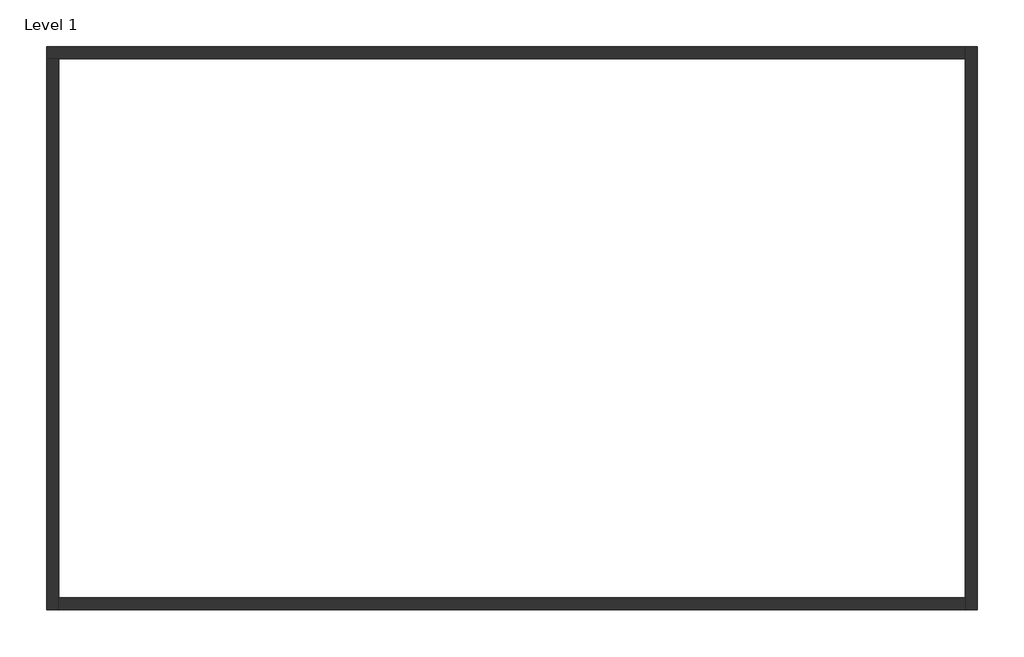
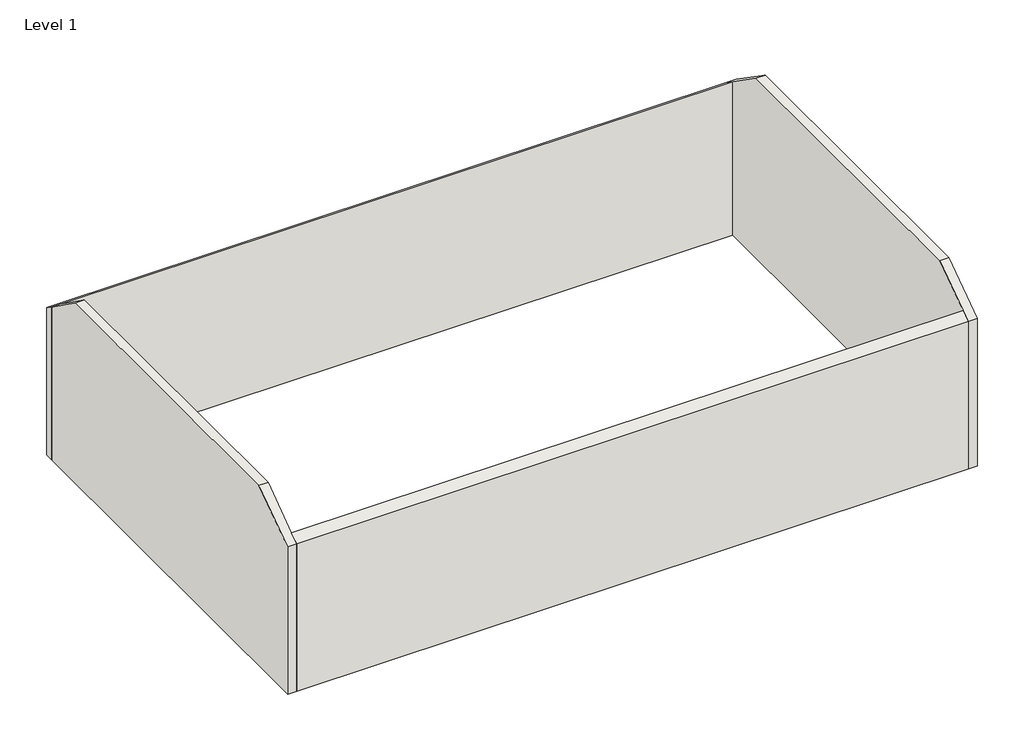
# One storey: 4 walls.
"""IFC4 building model written with IfcOpenShell, lengths in millimetres."""

import ifcopenshell
import ifcopenshell.guid

model = None  # the IFC model being written
_history = None  # IfcOwnerHistory: only IFC2X3 demands one
_inside = {}  # id of a spatial element -> (the spatial element, [elements in it])
_under = {}  # id of a project, library or spatial element -> (it, [spatial elements below it])
_declared = {}  # id of a project -> (the project, [libraries it declares])
_typed = {}  # id of a type object -> (the type object, [elements of that type])
_made_of = {}  # id of a material, layer set ... -> (it, [elements and type objects made of it])


def new_model(schema):
    """Start an empty IFC model of exactly this schema.

    Asked for "IFC4X3", IfcOpenShell would pick the latest addendum, in which some entities
    have other attributes; the version numbers below select the first issue.
    IFC2X3 requires an IfcOwnerHistory on every rooted entity: one is made here for all.
    """
    global model, _history
    if schema == "IFC4X3":
        model = ifcopenshell.file(schema_version=(4, 3, 0, 0))
    else:
        model = ifcopenshell.file(schema=schema)
    _inside.clear()
    _under.clear()
    _declared.clear()
    _typed.clear()
    _made_of.clear()
    _history = None
    if model.schema == "IFC2X3":
        org = make("IfcOrganization", Name="unknown")
        user = make(
            "IfcPersonAndOrganization",
            ThePerson=make("IfcPerson", FamilyName="unknown"),
            TheOrganization=org,
        )
        app = make(
            "IfcApplication",
            ApplicationDeveloper=org,
            Version="unknown",
            ApplicationFullName="unknown",
            ApplicationIdentifier="unknown",
        )
        _history = make(
            "IfcOwnerHistory",
            OwningUser=user,
            OwningApplication=app,
            ChangeAction="ADDED",
            CreationDate=0,
        )
    return model


def make(cls, **values):
    """One entity of the class cls with the attributes given. An attribute that is None is left unset."""
    return model.create_entity(
        cls, **{name: value for name, value in values.items() if value is not None}
    )


def rooted(cls, **values):
    """An entity with a GlobalId (a new one), such as an element, a storey or a relation."""
    return make(cls, GlobalId=ifcopenshell.guid.new(), OwnerHistory=_history, **values)


def si_unit(unit_type, name, prefix=None):
    """IfcSIUnit, for example si_unit("LENGTHUNIT", "METRE", prefix="MILLI")."""
    return make("IfcSIUnit", UnitType=unit_type, Prefix=prefix, Name=name)


def assignment(units):
    """IfcUnitAssignment: the units of a project."""
    return None if units is None else make("IfcUnitAssignment", Units=units)


def point(xyz):
    """IfcCartesianPoint."""
    return None if xyz is None else make("IfcCartesianPoint", Coordinates=xyz)


def direction(xyz):
    """IfcDirection."""
    return None if xyz is None else make("IfcDirection", DirectionRatios=xyz)


def frame(location, z_axis=None, x_axis=None):
    """IfcAxis2Placement3D, a coordinate frame: its origin and axes. An axis left out is left unset."""
    return make(
        "IfcAxis2Placement3D",
        Location=point(location),
        Axis=direction(z_axis),
        RefDirection=direction(x_axis),
    )


def origin():
    """The frame at (0, 0, 0) with its axes left unset."""
    return frame((0.0, 0.0, 0.0))


def place(relative_to, where):
    """IfcLocalPlacement: puts the frame where relative to a parent placement (None: the world)."""
    return make(
        "IfcLocalPlacement", PlacementRelTo=relative_to, RelativePlacement=where
    )


def context(
    kind, dimensions, precision=None, world=None, true_north=None, identifier=None
):
    """IfcGeometricRepresentationContext, for example the 3D "Model" context."""
    return make(
        "IfcGeometricRepresentationContext",
        ContextIdentifier=identifier,
        ContextType=kind,
        CoordinateSpaceDimension=dimensions,
        Precision=precision,
        WorldCoordinateSystem=world,
        TrueNorth=true_north,
    )


def project(units=None, contexts=None):
    """IfcProject with its units and contexts."""
    return rooted(
        "IfcProject",
        Name="project",
        RepresentationContexts=contexts,
        UnitsInContext=assignment(units),
    )


def spatial(cls, under=None, at=None, **own):
    """A site, building, storey or space (cls), placed at a placement, below another one or the project."""
    s = rooted(cls, ObjectPlacement=at, **own)
    if under is not None:
        _under.setdefault(under.id(), (under, []))[1].append(s)
    return s


def polyline(points):
    """IfcPolyline through the points."""
    return make("IfcPolyline", Points=[point(p) for p in points])


def outline(outer, holes=None, kind="AREA"):
    """IfcArbitraryClosedProfileDef: a profile drawn as a closed curve; with holes, ...WithVoids."""
    if holes is None:
        return make("IfcArbitraryClosedProfileDef", ProfileType=kind, OuterCurve=outer)
    return make(
        "IfcArbitraryProfileDefWithVoids",
        ProfileType=kind,
        OuterCurve=outer,
        InnerCurves=holes,
    )


def extrude(swept, where, along, depth):
    """IfcExtrudedAreaSolid: the profile swept, set in the frame where, extruded along a direction by depth."""
    return make(
        "IfcExtrudedAreaSolid",
        SweptArea=swept,
        Position=where,
        ExtrudedDirection=direction(along),
        Depth=depth,
    )


def faces_of(points, faces, orient=None, outer=None):
    """IfcFace entities. A face is a list of loops; a loop is a list of indices into points, from 0.

    orient and outer hold one flag for each loop. By default every Orientation is true, the
    first loop of a face is its IfcFaceOuterBound and the others are IfcFaceBound.
    """
    made = []
    for i, loops in enumerate(faces):
        bounds = []
        for j, loop in enumerate(loops):
            is_outer = j == 0 if outer is None else outer[i][j]
            bounds.append(
                make(
                    "IfcFaceOuterBound" if is_outer else "IfcFaceBound",
                    Bound=make("IfcPolyLoop", Polygon=[points[k] for k in loop]),
                    Orientation=True if orient is None else orient[i][j],
                )
            )
        made.append(make("IfcFace", Bounds=bounds))
    return made


def faceted_brep(points, faces, orient=None, outer=None, voids=None):
    """IfcFacetedBrep: a solid bounded by flat faces; with voids (closed shells), ...WithVoids."""
    shared = [point(p) for p in points]
    hull = make("IfcClosedShell", CfsFaces=faces_of(shared, faces, orient, outer))
    if voids is None:
        return make("IfcFacetedBrep", Outer=hull)
    return make(
        "IfcFacetedBrepWithVoids",
        Outer=hull,
        Voids=[
            make(cls, CfsFaces=faces_of(shared, fs, o, b)) for cls, fs, o, b in voids
        ],
    )


def shape(context_of_items, identifier, shape_type, items):
    """IfcShapeRepresentation: the items that make up one representation, for example the "Body"."""
    return make(
        "IfcShapeRepresentation",
        ContextOfItems=context_of_items,
        RepresentationIdentifier=identifier,
        RepresentationType=shape_type,
        Items=items,
    )


def made_of(thing, what):
    """Note that an element or type object is made of a material, layer set ...; save() writes the relation."""
    if what is not None:
        _made_of.setdefault(what.id(), (what, []))[1].append(thing)
    return thing


def element(
    cls,
    number,
    at=None,
    inside=None,
    cuts=None,
    type_object=None,
    material=None,
    context=None,
    identifier="Body",
    shape_type=None,
    held_by="IfcProductDefinitionShape",
    body=None,
    shapes=None,
    **own,
):
    """One element of the class cls, such as IfcWall. Its Tag is "e" and its number.

    at: its placement. inside: the storey or other place that contains it. cuts: it is an
    opening in that element (IfcRelVoidsElement). A single representation is given by context,
    identifier, shape_type and body (its items); several are given by shapes. held_by: the class
    of the entity that holds the representations. save() writes the other relations.
    """
    e = rooted(cls, Tag="e%d" % number, ObjectPlacement=at, **own)
    if body is not None:
        shapes = [shape(context, identifier, shape_type, body)]
    if shapes is not None:
        e.Representation = make(held_by, Representations=shapes)
    if inside is not None:
        _inside.setdefault(inside.id(), (inside, []))[1].append(e)
    if cuts is not None:
        rooted(
            "IfcRelVoidsElement", RelatingBuildingElement=cuts, RelatedOpeningElement=e
        )
    if type_object is not None:
        _typed.setdefault(type_object.id(), (type_object, []))[1].append(e)
    return made_of(e, material)


def aggregate(whole, parts):
    """IfcRelAggregates: a whole, such as a stair, and the parts it consists of."""
    return rooted("IfcRelAggregates", RelatingObject=whole, RelatedObjects=parts)


def save(model, path):
    """Write the relations noted so far, then the file.

    IfcRelAggregates (storeys below a building ...), IfcRelContainedInSpatialStructure (elements
    in a storey), IfcRelDefinesByType, IfcRelAssociatesMaterial and IfcRelDeclares: one each for
    every whole, place, type object, material and project.
    """
    for whole, parts in _under.values():
        aggregate(whole, parts)
    for where, things in _inside.values():
        rooted(
            "IfcRelContainedInSpatialStructure",
            RelatedElements=things,
            RelatingStructure=where,
        )
    for kind, things in _typed.values():
        rooted("IfcRelDefinesByType", RelatedObjects=things, RelatingType=kind)
    for what, things in _made_of.values():
        rooted("IfcRelAssociatesMaterial", RelatedObjects=things, RelatingMaterial=what)
    for by, libraries in _declared.values():
        rooted("IfcRelDeclares", RelatingContext=by, RelatedDefinitions=libraries)
    model.write(path)


model = new_model("IFC4")

# Units and contexts
model_context = context("Model", 3, world=origin())
ifc_project = project(units=[si_unit("LENGTHUNIT", "METRE", prefix="MILLI")], contexts=[model_context])

# Site, building, storey
site = spatial("IfcSite", under=ifc_project)
building = spatial("IfcBuilding", under=site)
storey = spatial("IfcBuildingStorey", under=building, Name="Level 1", Elevation=0.0)

# Walls
placement = place(None, origin())
element("IfcWall", 1, ObjectType="Generic - 8\"", at=placement, inside=storey, context=model_context, shape_type="Brep", body=[
    faceted_brep([(-7596.1466991, 6927.4122484, 0.0), (-7392.9466991, 6927.4122484, 0.0), (7643.8533009, 6927.4122484, 0.0), (7643.8533009, 6927.4122484, 3630.9841848), (-7392.9466991, 6927.4122484, 3630.9841848), (-7596.1466991, 6927.4122484, 3630.9841848), (-7596.1466991, 7130.6122484, 0.0), (-7596.1466991, 7130.6122484, 3488.7441848), (7643.8533009, 7130.6122484, 3488.7441848), (7643.8533009, 7130.6122484, 0.0)], [[[0, 1, 2, 3, 4, 5]], [[6, 7, 8, 9]], [[2, 1, 0, 6, 9]], [[0, 5, 7, 6]], [[3, 2, 9, 8]], [[5, 4, 3, 8, 7]]]),
])
element("IfcWall", 2, ObjectType="Generic - 8\"", at=placement, inside=storey, context=model_context, shape_type="Brep", body=[
    faceted_brep([(-7392.9466991, -2216.5877516, 0.0), (-7392.9466991, -2013.3877516, 0.0), (-7392.9466991, 6927.4122484, 0.0), (-7392.9466991, 6927.4122484, 3630.9841848), (-7392.9466991, 6018.5325125, 4267.2), (-7392.9466991, -1104.5080156, 4267.2), (-7392.9466991, -2013.3877516, 3630.9841848), (-7392.9466991, -2216.5877516, 3488.7441848), (-7596.1466991, -2216.5877516, 0.0), (-7596.1466991, -2216.5877516, 3488.7441848), (-7596.1466991, -1104.5080156, 4267.2), (-7596.1466991, 6018.5325125, 4267.2), (-7596.1466991, 6927.4122484, 3630.9841848), (-7596.1466991, 6927.4122484, 0.0)], [[[0, 1, 2, 3, 4, 5, 6, 7]], [[8, 9, 10, 11, 12, 13]], [[2, 1, 0, 8, 13]], [[0, 7, 9, 8]], [[3, 2, 13, 12]], [[7, 6, 5, 10, 9]], [[5, 4, 11, 10]], [[4, 3, 12, 11]]]),
])
element("IfcWall", 3, ObjectType="Generic - 8\"", at=placement, inside=storey, context=model_context, shape_type="SweptSolid", body=[
    extrude(outline(polyline([(-2013.3877516, 3630.9841848), (-2013.3877516, 0.0), (-2216.5877516, 0.0), (-2216.5877516, 3488.7441848), (-2013.3877516, 3630.9841848)])), frame((-7392.9466991, 0.0, 0.0), z_axis=(1.0, 0.0, 0.0), x_axis=(0.0, 1.0, 0.0)), (0.0, 0.0, 1.0), 15036.8),
])
element("IfcWall", 4, ObjectType="Generic - 8\"", at=placement, inside=storey, context=model_context, shape_type="Brep", body=[
    faceted_brep([(7643.8533009, 7130.6122484, 0.0), (7643.8533009, 6927.4122484, 0.0), (7643.8533009, -2013.3877516, 0.0), (7643.8533009, -2216.5877516, 0.0), (7643.8533009, -2216.5877516, 3488.7441848), (7643.8533009, -2013.3877516, 3630.9841848), (7643.8533009, -1104.5080156, 4267.2), (7643.8533009, 6018.5325125, 4267.2), (7643.8533009, 6927.4122484, 3630.9841848), (7643.8533009, 7130.6122484, 3488.7441848), (7847.0533009, 7130.6122484, 0.0), (7847.0533009, 7130.6122484, 3488.7441848), (7847.0533009, 6018.5325125, 4267.2), (7847.0533009, -1104.5080156, 4267.2), (7847.0533009, -2216.5877516, 3488.7441848), (7847.0533009, -2216.5877516, 0.0)], [[[0, 1, 2, 3, 4, 5, 6, 7, 8, 9]], [[10, 11, 12, 13, 14, 15]], [[3, 2, 1, 0, 10, 15]], [[0, 9, 11, 10]], [[4, 3, 15, 14]], [[9, 8, 7, 12, 11]], [[7, 6, 13, 12]], [[6, 5, 4, 14, 13]]]),
])

save(model, "model.ifc")
